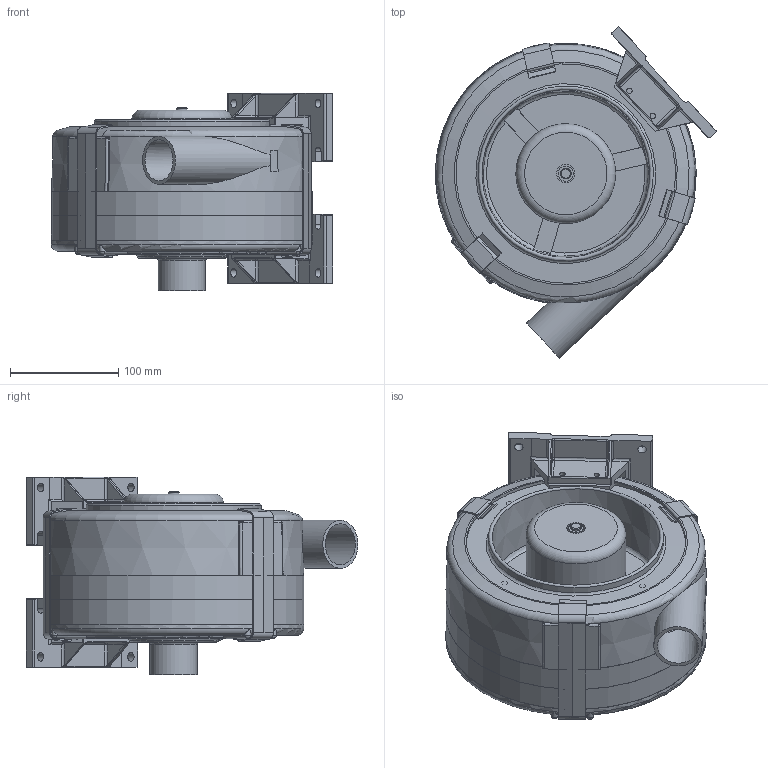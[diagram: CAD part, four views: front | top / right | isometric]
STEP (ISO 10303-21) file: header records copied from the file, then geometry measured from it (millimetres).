
FILE_DESCRIPTION(/* description */ (''),/* implementation_level */ '2;1');
FILE_NAME(/* name */ 'T:\Drawings\Standard Drawings\DATA Web Downloads\3D FILES\MS8 24VDC TANG _ 3D11-0099.stp',/* time_stamp */ '2015-02-19T15:38:56+00:00',/* author */ ('mtinkler'),/* organization */ (''),/* preprocessor_version */ 'ST-DEVELOPER v15.6',/* originating_system */ 'Autodesk Inventor 2015',/* authorisation */ '');
FILE_SCHEMA (('AUTOMOTIVE_DESIGN { 1 0 10303 214 3 1 1 }'));
Length unit declared in the file: centimetre
Products named in the file (1): 3D11-0099
Bounding box: 260.11 x 306.99 x 182.95 mm (x, y, z)
Volume: 1799795.3 mm3; surface area: 726559.5 mm2
Topology: 11 solids, 11 shells, 669 faces, 1697 edges, 1089 vertices
Faces by surface type: plane 286, cylinder 271, torus 44, cone 35, bspline 19, sphere 14
Full cylindrical faces by diameter (mm): 2.85 x1, 3.048 x14, 3.242 x4, 5 x6, 5.029 x4, 5.97 x4, 6.53 x3, 7.938 x4, 8 x1, 10 x1, 14 x1, 17 x1, 19.05 x1, 25.5 x1, 38.1 x2, 40.5 x1, 43.836 x1, 44.5 x1, 48 x1, 66.775 x2, 82.55 x1, 88.25 x1, 92.25 x2, 203.2 x1, 232.82 x1, 232.893 x4, 236.66 x1, 236.73 x2, 236.855 x2, 236.88 x1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
Entity records: 23530 total; most frequent: CARTESIAN_POINT 7438, DIRECTION 3212, ORIENTED_EDGE 3072, EDGE_CURVE 1521, AXIS2_PLACEMENT_3D 1267, VERTEX_POINT 1045, EDGE_LOOP 863, LINE 678
